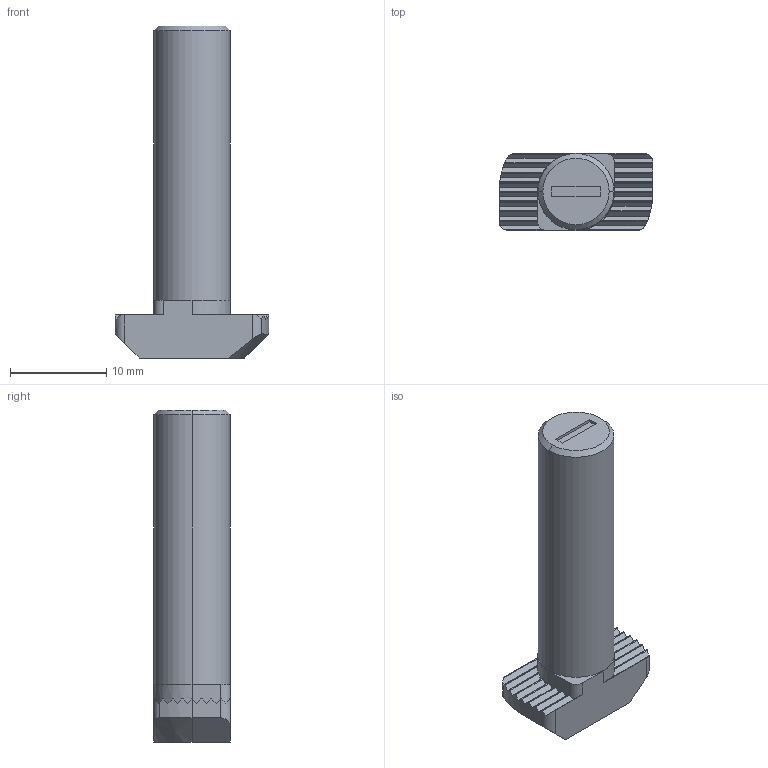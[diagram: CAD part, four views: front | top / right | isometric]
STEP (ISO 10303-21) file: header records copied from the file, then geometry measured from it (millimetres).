
FILE_DESCRIPTION(('STEP AP214'),'1');
FILE_NAME('fath_096hk0815m0830.stp','2017-10-09T08:27:58',('TraceParts'),('TraceParts S.A.'),'Spatial InterOp 3D',' ',' ');
FILE_SCHEMA(('automotive_design'));
Length unit declared in the file: millimetre
Products named in the file (1): fath_096hk0815m0830
Bounding box: 16 x 8 x 34.5 mm (x, y, z)
Volume: 1974 mm3; surface area: 1188.2 mm2
Topology: 1 solids, 1 shells, 96 faces, 264 edges, 172 vertices
Faces by surface type: plane 48, cylinder 44, cone 4
Entity records: 4201 total; most frequent: CARTESIAN_POINT 1151, ORIENTED_EDGE 528, DIRECTION 408, EDGE_CURVE 264, VERTEX_POINT 172, LINE 138, VECTOR 138, AXIS2_PLACEMENT_3D 135
